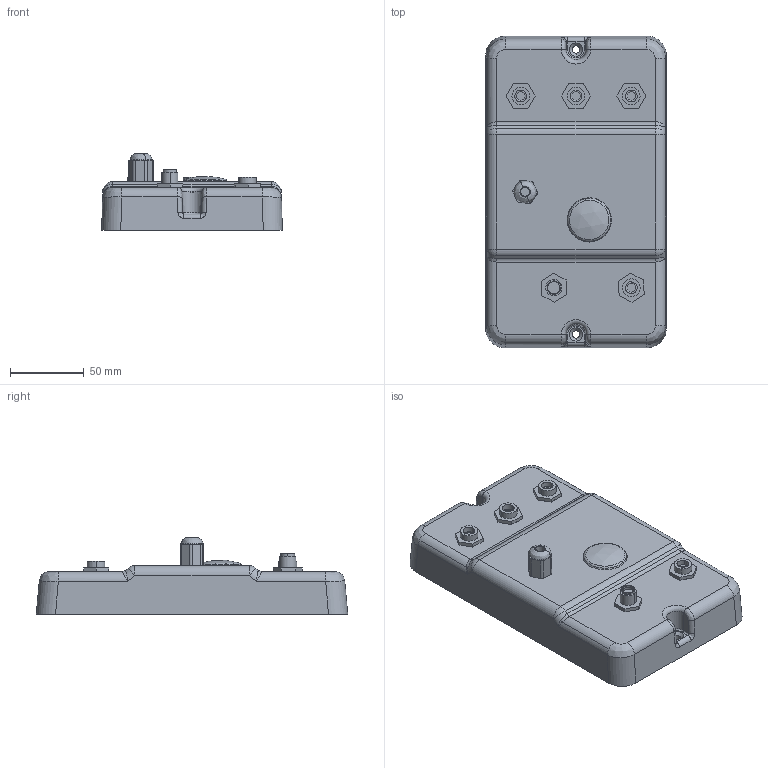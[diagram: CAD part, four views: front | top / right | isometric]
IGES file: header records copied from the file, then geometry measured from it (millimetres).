
Global section: file name: No Iges File Name specified; native system: Autodesk Inventor 2011; preprocessor: AutoDesk Inventor Iges Exporter R2011; author: Trivella; date: 20120413.112834; units: millimetre
Bounding box: 122.57 x 211.27 x 52 mm (x, y, z)
Volume: 210405.2 mm3; surface area: 187588.2 mm2
Topology: 35 solids, 35 shells, 674 faces, 1643 edges, 1037 vertices
Faces by surface type: plane 329, bspline 97, cylinder 92, revolution 89, torus 50, cone 12, sphere 5
